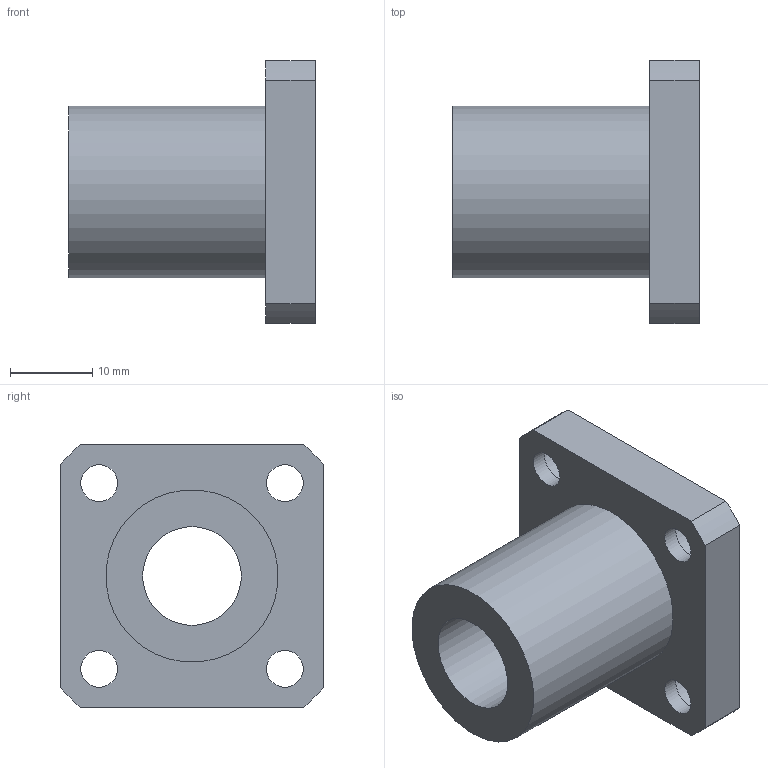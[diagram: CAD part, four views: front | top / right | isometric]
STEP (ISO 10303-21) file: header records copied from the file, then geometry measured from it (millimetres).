
FILE_DESCRIPTION(/* description */ (''),/* implementation_level */ '2;1');
FILE_NAME(/* name */ 'LMK12UU',/* time_stamp */ '2019-07-09T15:12:59+02:00',/* author */ ('VĂ©gh MĂˇtĂ©'),/* organization */ ('Bearing Kft'),/* preprocessor_version */ 'ST-DEVELOPER v16.7',/* originating_system */ 'DEX',/* authorisation */ $);
FILE_SCHEMA (('AUTOMOTIVE_DESIGN {1 0 10303 214 3 1 1}'));
Length unit declared in the file: millimetre
Products named in the file (1): LMK12UU
Bounding box: 30 x 32 x 32 mm (x, y, z)
Volume: 10151.5 mm3; surface area: 5630 mm2
Topology: 1 solids, 1 shells, 328 faces, 828 edges, 552 vertices
Faces by surface type: plane 253, bspline 58, cylinder 17
Full cylindrical faces by diameter (mm): 4.5 x4, 7.5 x4, 12 x1, 21 x1
Entity records: 12323 total; most frequent: CARTESIAN_POINT 4766, ORIENTED_EDGE 1634, DIRECTION 1277, EDGE_CURVE 817, LINE 667, VECTOR 667, VERTEX_POINT 552, EDGE_LOOP 399
